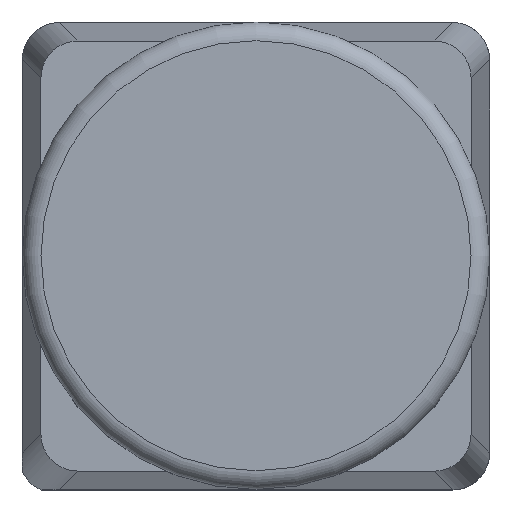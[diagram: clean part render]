
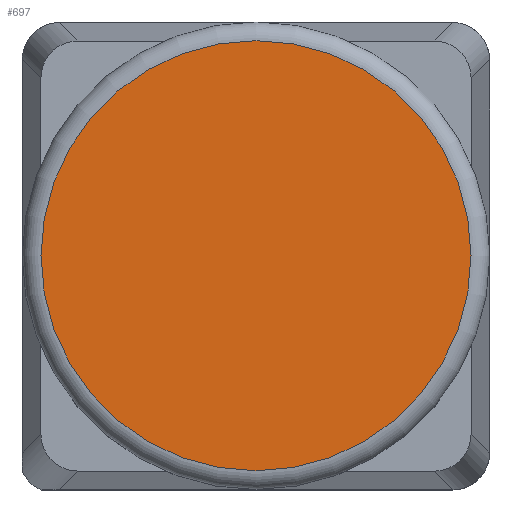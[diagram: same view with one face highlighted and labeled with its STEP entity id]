
A CAD part, top view. The second image highlights one B-rep face of the part: STEP entity #697.
In plain terms, the highlighted planar face has unit normal (0, 0, 1).
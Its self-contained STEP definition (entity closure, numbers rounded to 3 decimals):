
#674=CARTESIAN_POINT('',(11.5,0.0,14.5));
#675=VERTEX_POINT('',#674);
#676=CARTESIAN_POINT('',(0.0,0.0,14.5));
#677=DIRECTION('',(0.0,0.0,-1.0));
#678=DIRECTION('',(-1.0,0.0,0.0));
#679=AXIS2_PLACEMENT_3D('',#676,#677,#678);
#680=CIRCLE('',#679,11.5);
#681=EDGE_CURVE('',#675,#675,#680,.T.);
#689=CARTESIAN_POINT('',(1.136,0.0,14.5));
#690=DIRECTION('',(0.0,0.0,1.0));
#691=DIRECTION('',(1.0,0.0,0.0));
#692=AXIS2_PLACEMENT_3D('',#689,#690,#691);
#693=PLANE('',#692);
#694=ORIENTED_EDGE('',*,*,#681,.F.);
#695=EDGE_LOOP('',(#694));
#696=FACE_OUTER_BOUND('',#695,.T.);
#697=ADVANCED_FACE('',(#696),#693,.T.);
